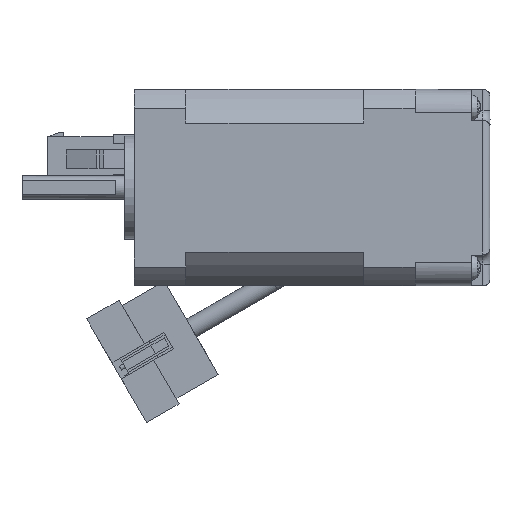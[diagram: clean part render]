
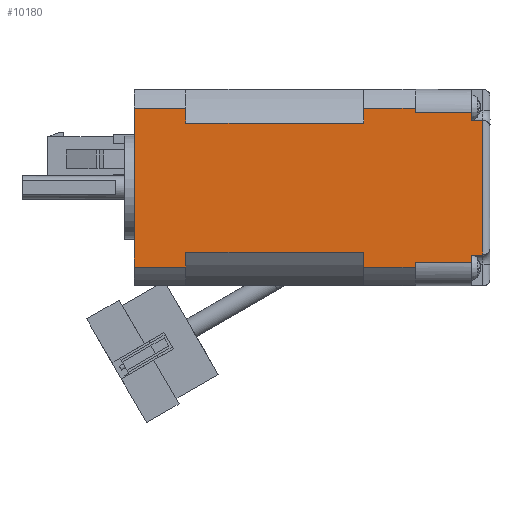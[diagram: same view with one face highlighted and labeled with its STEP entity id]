
A CAD part, front view. The second image highlights one B-rep face of the part: STEP entity #10180.
In plain terms, the highlighted planar face has unit normal (0, -1, 0).
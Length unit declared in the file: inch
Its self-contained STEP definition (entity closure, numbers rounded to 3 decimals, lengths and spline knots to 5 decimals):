
#335=LINE('',#15702,#1298);
#337=LINE('',#15708,#1300);
#339=LINE('',#15715,#1302);
#342=LINE('',#15724,#1305);
#355=LINE('',#15755,#1318);
#371=LINE('',#15792,#1334);
#372=LINE('',#15794,#1335);
#373=LINE('',#15796,#1336);
#374=LINE('',#15798,#1337);
#375=LINE('',#15800,#1338);
#376=LINE('',#15802,#1339);
#377=LINE('',#15804,#1340);
#378=LINE('',#15806,#1341);
#379=LINE('',#15808,#1342);
#380=LINE('',#15810,#1343);
#381=LINE('',#15812,#1344);
#382=LINE('',#15814,#1345);
#383=LINE('',#15816,#1346);
#384=LINE('',#15818,#1347);
#385=LINE('',#15819,#1348);
#1298=VECTOR('',#12339,1.49606);
#1300=VECTOR('',#12345,0.12615);
#1302=VECTOR('',#12353,0.12615);
#1305=VECTOR('',#12362,0.43307);
#1318=VECTOR('',#12387,0.43307);
#1334=VECTOR('',#12415,0.03821);
#1335=VECTOR('',#12416,0.47244);
#1336=VECTOR('',#12417,0.06299);
#1337=VECTOR('',#12418,0.09843);
#1338=VECTOR('',#12419,1.13386);
#1339=VECTOR('',#12420,0.09843);
#1340=VECTOR('',#12421,0.06299);
#1341=VECTOR('',#12422,0.47244);
#1342=VECTOR('',#12423,0.03821);
#1343=VECTOR('',#12424,0.43307);
#1344=VECTOR('',#12425,0.12615);
#1345=VECTOR('',#12426,1.49606);
#1346=VECTOR('',#12427,0.12615);
#1347=VECTOR('',#12428,0.43307);
#1348=VECTOR('',#12429,1.33626);
#2201=PLANE('',#10932);
#2865=FACE_OUTER_BOUND('',#3492,.T.);
#3492=EDGE_LOOP('',(#7638,#7639,#7640,#7641,#7642,#7643,#7644,#7645,#7646,
#7647,#7648,#7649,#7650,#7651,#7652,#7653,#7654,#7655,#7656,#7657));
#4803=VERTEX_POINT('',#15699);
#4804=VERTEX_POINT('',#15701);
#4806=VERTEX_POINT('',#15707);
#4808=VERTEX_POINT('',#15713);
#4811=VERTEX_POINT('',#15723);
#4823=VERTEX_POINT('',#15753);
#4838=VERTEX_POINT('',#15791);
#4839=VERTEX_POINT('',#15793);
#4840=VERTEX_POINT('',#15795);
#4841=VERTEX_POINT('',#15797);
#4842=VERTEX_POINT('',#15799);
#4843=VERTEX_POINT('',#15801);
#4844=VERTEX_POINT('',#15803);
#4845=VERTEX_POINT('',#15805);
#4846=VERTEX_POINT('',#15807);
#4847=VERTEX_POINT('',#15809);
#4848=VERTEX_POINT('',#15811);
#4849=VERTEX_POINT('',#15813);
#4850=VERTEX_POINT('',#15815);
#4851=VERTEX_POINT('',#15817);
#5877=EDGE_CURVE('',#4803,#4804,#335,.T.);
#5880=EDGE_CURVE('',#4804,#4806,#337,.T.);
#5884=EDGE_CURVE('',#4808,#4803,#339,.T.);
#5888=EDGE_CURVE('',#4806,#4811,#342,.T.);
#5905=EDGE_CURVE('',#4823,#4808,#355,.T.);
#5924=EDGE_CURVE('',#4823,#4838,#371,.T.);
#5925=EDGE_CURVE('',#4839,#4838,#372,.T.);
#5926=EDGE_CURVE('',#4839,#4840,#373,.T.);
#5927=EDGE_CURVE('',#4840,#4841,#374,.T.);
#5928=EDGE_CURVE('',#4841,#4842,#375,.T.);
#5929=EDGE_CURVE('',#4842,#4843,#376,.T.);
#5930=EDGE_CURVE('',#4843,#4844,#377,.T.);
#5931=EDGE_CURVE('',#4844,#4845,#378,.T.);
#5932=EDGE_CURVE('',#4845,#4846,#379,.T.);
#5933=EDGE_CURVE('',#4847,#4846,#380,.T.);
#5934=EDGE_CURVE('',#4848,#4847,#381,.T.);
#5935=EDGE_CURVE('',#4849,#4848,#382,.T.);
#5936=EDGE_CURVE('',#4849,#4850,#383,.T.);
#5937=EDGE_CURVE('',#4851,#4850,#384,.T.);
#5938=EDGE_CURVE('',#4811,#4851,#385,.T.);
#7638=ORIENTED_EDGE('',*,*,#5905,.F.);
#7639=ORIENTED_EDGE('',*,*,#5924,.T.);
#7640=ORIENTED_EDGE('',*,*,#5925,.F.);
#7641=ORIENTED_EDGE('',*,*,#5926,.T.);
#7642=ORIENTED_EDGE('',*,*,#5927,.T.);
#7643=ORIENTED_EDGE('',*,*,#5928,.T.);
#7644=ORIENTED_EDGE('',*,*,#5929,.T.);
#7645=ORIENTED_EDGE('',*,*,#5930,.T.);
#7646=ORIENTED_EDGE('',*,*,#5931,.T.);
#7647=ORIENTED_EDGE('',*,*,#5932,.T.);
#7648=ORIENTED_EDGE('',*,*,#5933,.F.);
#7649=ORIENTED_EDGE('',*,*,#5934,.F.);
#7650=ORIENTED_EDGE('',*,*,#5935,.F.);
#7651=ORIENTED_EDGE('',*,*,#5936,.T.);
#7652=ORIENTED_EDGE('',*,*,#5937,.F.);
#7653=ORIENTED_EDGE('',*,*,#5938,.F.);
#7654=ORIENTED_EDGE('',*,*,#5888,.F.);
#7655=ORIENTED_EDGE('',*,*,#5880,.F.);
#7656=ORIENTED_EDGE('',*,*,#5877,.F.);
#7657=ORIENTED_EDGE('',*,*,#5884,.F.);
#10180=ADVANCED_FACE('',(#2865),#2201,.F.);
#10932=AXIS2_PLACEMENT_3D('',#15790,#12413,#12414);
#12339=DIRECTION('',(-1.,0.,0.));
#12345=DIRECTION('',(0.,0.,-1.));
#12353=DIRECTION('',(0.,0.,1.));
#12362=DIRECTION('',(-1.,0.,0.));
#12387=DIRECTION('',(-1.,0.,0.));
#12413=DIRECTION('center_axis',(0.,1.,0.));
#12414=DIRECTION('ref_axis',(1.,0.,0.));
#12415=DIRECTION('',(0.,0.,1.));
#12416=DIRECTION('',(-1.,0.,0.));
#12417=DIRECTION('',(0.,0.,1.));
#12418=DIRECTION('',(1.,0.,0.));
#12419=DIRECTION('',(0.,0.,1.));
#12420=DIRECTION('',(-1.,0.,0.));
#12421=DIRECTION('',(0.,0.,1.));
#12422=DIRECTION('',(-1.,0.,0.));
#12423=DIRECTION('',(0.,0.,1.));
#12424=DIRECTION('',(1.,0.,0.));
#12425=DIRECTION('',(0.,0.,1.));
#12426=DIRECTION('',(1.,0.,0.));
#12427=DIRECTION('',(0.,0.,1.));
#12428=DIRECTION('',(1.,0.,0.));
#12429=DIRECTION('',(0.,0.,1.));
#15699=CARTESIAN_POINT('',(-0.43307,10.83316,-1.08009));
#15701=CARTESIAN_POINT('',(-1.92913,10.83316,-1.08009));
#15702=CARTESIAN_POINT('',(-2.3622,10.83316,-1.08009));
#15707=CARTESIAN_POINT('',(-1.92913,10.83316,-1.20624));
#15708=CARTESIAN_POINT('',(-1.92913,10.83316,0.13002));
#15713=CARTESIAN_POINT('',(-0.43307,10.83316,-1.20624));
#15715=CARTESIAN_POINT('',(-0.43307,10.83316,0.13002));
#15723=CARTESIAN_POINT('',(-2.3622,10.83316,-1.20624));
#15724=CARTESIAN_POINT('',(-2.3622,10.83316,-1.20624));
#15753=CARTESIAN_POINT('',(0.,10.83316,-1.20624));
#15755=CARTESIAN_POINT('',(-2.3622,10.83316,-1.20624));
#15790=CARTESIAN_POINT('Origin',(-2.3622,10.83316,0.13002));
#15791=CARTESIAN_POINT('',(0.,10.83316,-1.16803));
#15792=CARTESIAN_POINT('',(0.,10.83316,-0.53811));
#15793=CARTESIAN_POINT('',(0.47244,10.83316,-1.16803));
#15794=CARTESIAN_POINT('',(0.,10.83316,-1.16803));
#15795=CARTESIAN_POINT('',(0.47244,10.83316,-1.10504));
#15796=CARTESIAN_POINT('',(0.47244,10.83316,-2.76145));
#15797=CARTESIAN_POINT('',(0.57087,10.83316,-1.10504));
#15798=CARTESIAN_POINT('',(0.,10.83316,-1.10504));
#15799=CARTESIAN_POINT('',(0.57087,10.83316,0.02882));
#15800=CARTESIAN_POINT('',(0.57087,10.83316,-2.76145));
#15801=CARTESIAN_POINT('',(0.47244,10.83316,0.02882));
#15802=CARTESIAN_POINT('',(0.,10.83316,0.02882));
#15803=CARTESIAN_POINT('',(0.47244,10.83316,0.09181));
#15804=CARTESIAN_POINT('',(0.47244,10.83316,0.09181));
#15805=CARTESIAN_POINT('',(0.,10.83316,0.09181));
#15806=CARTESIAN_POINT('',(0.,10.83316,0.09181));
#15807=CARTESIAN_POINT('',(0.,10.83316,0.13002));
#15808=CARTESIAN_POINT('',(0.,10.83316,-0.53811));
#15809=CARTESIAN_POINT('',(-0.43307,10.83316,0.13002));
#15810=CARTESIAN_POINT('',(-2.3622,10.83316,0.13002));
#15811=CARTESIAN_POINT('',(-0.43307,10.83316,0.00387));
#15812=CARTESIAN_POINT('',(-0.43307,10.83316,-0.53811));
#15813=CARTESIAN_POINT('',(-1.92913,10.83316,0.00387));
#15814=CARTESIAN_POINT('',(-0.43307,10.83316,0.00387));
#15815=CARTESIAN_POINT('',(-1.92913,10.83316,0.13002));
#15816=CARTESIAN_POINT('',(-1.92913,10.83316,-0.53811));
#15817=CARTESIAN_POINT('',(-2.3622,10.83316,0.13002));
#15818=CARTESIAN_POINT('',(-2.3622,10.83316,0.13002));
#15819=CARTESIAN_POINT('',(-2.3622,10.83316,-0.53811));
